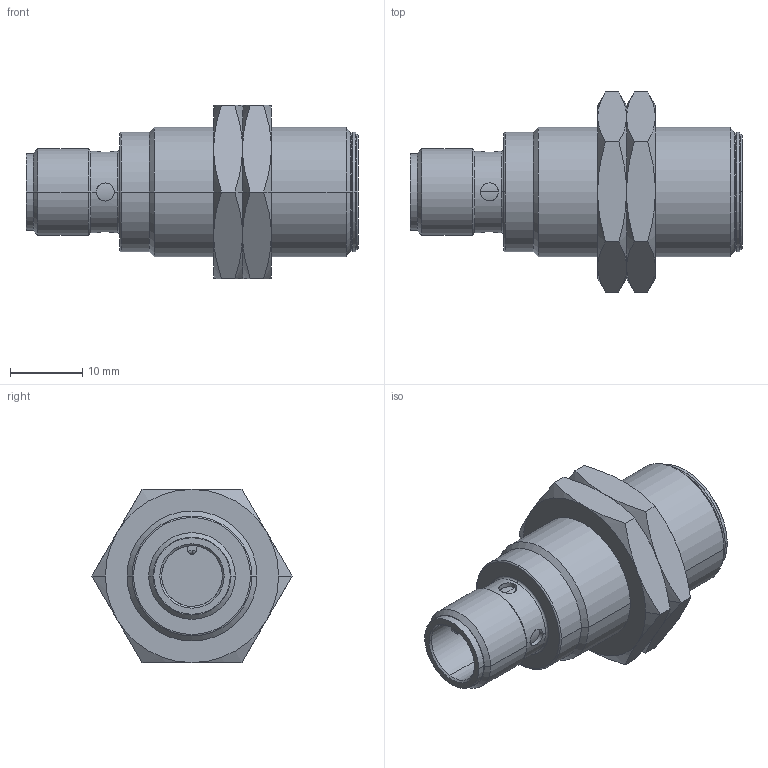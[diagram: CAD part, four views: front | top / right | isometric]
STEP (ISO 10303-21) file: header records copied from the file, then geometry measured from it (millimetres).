
FILE_DESCRIPTION( ( '' ), '1' );
FILE_NAME( '//partserver001.servicenet/client_exchange/iodir/jobs/output/wkb10598320_no0/STEP/igt237_2_03.stp', '2008-05-15T09:24:53', ( '' ), ( '' ), ' ', ' ', ' ' );
FILE_SCHEMA( ( 'CONFIG_CONTROL_DESIGN' ) );
Length unit declared in the file: millimetre
Products named in the file (3): 1; 2; 3
Bounding box: 46 x 27.71 x 24 mm (x, y, z)
Volume: 11157.5 mm3; surface area: 5074.6 mm2
Topology: 3 solids, 3 shells, 122 faces, 274 edges, 164 vertices
Faces by surface type: cone 50, cylinder 35, plane 25, torus 12
Entity records: 3730 total; most frequent: CARTESIAN_POINT 965, DIRECTION 580, ORIENTED_EDGE 548, EDGE_CURVE 274, AXIS2_PLACEMENT_3D 251, VERTEX_POINT 164, EDGE_LOOP 132, CIRCLE 126
